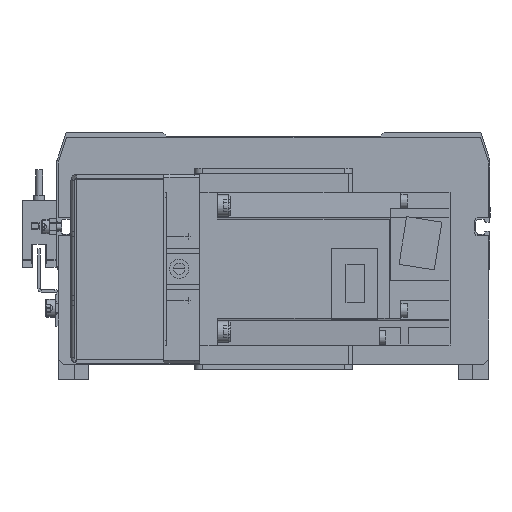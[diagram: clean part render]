
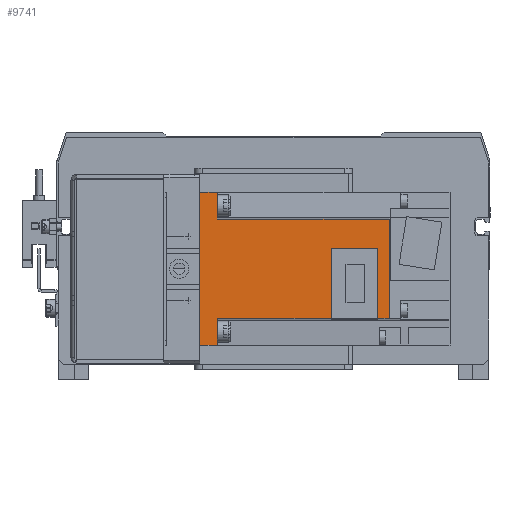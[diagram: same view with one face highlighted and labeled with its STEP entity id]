
A CAD part, front view. The second image highlights one B-rep face of the part: STEP entity #9741.
In plain terms, the highlighted planar face has unit normal (0, -1, 0) as drawn and (1, 0, 0) by its records, which use the part's own axes.
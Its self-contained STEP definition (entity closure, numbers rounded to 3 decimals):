
#260 = ORIENTED_EDGE ( 'NONE', *, *, #28273, .F. ) ;
#1345 = EDGE_CURVE ( 'NONE', #31547, #38674, #34693, .T. ) ;
#1604 = ORIENTED_EDGE ( 'NONE', *, *, #13764, .F. ) ;
#1824 = EDGE_CURVE ( 'NONE', #34886, #28120, #7977, .T. ) ;
#1915 = EDGE_CURVE ( 'NONE', #12180, #17762, #31062, .T. ) ;
#2846 = VECTOR ( 'NONE', #35139, 1000. ) ;
#3075 = DIRECTION ( 'NONE',  ( 0., 0., -1. ) ) ;
#4264 = CARTESIAN_POINT ( 'NONE',  ( 30., 0., -30. ) ) ;
#4370 = ORIENTED_EDGE ( 'NONE', *, *, #42061, .F. ) ;
#4435 = VECTOR ( 'NONE', #34266, 1000. ) ;
#5541 = CARTESIAN_POINT ( 'NONE',  ( 30., 51.7, 8. ) ) ;
#6582 = VECTOR ( 'NONE', #3075, 1000. ) ;
#7108 = EDGE_CURVE ( 'NONE', #28120, #27950, #12676, .T. ) ;
#7977 = LINE ( 'NONE', #38314, #26899 ) ;
#8262 = ORIENTED_EDGE ( 'NONE', *, *, #1345, .F. ) ;
#9102 = EDGE_CURVE ( 'NONE', #25977, #31547, #26340, .T. ) ;
#9741 = ADVANCED_FACE ( 'NONE', ( #34570 ), #10583, .F. ) ;
#10177 = DIRECTION ( 'NONE',  ( -1., 0., 0. ) ) ;
#10583 = PLANE ( 'NONE',  #29922 ) ;
#10678 = DIRECTION ( 'NONE',  ( 0., -1., 0. ) ) ;
#10706 = CARTESIAN_POINT ( 'NONE',  ( 30., 7., 30. ) ) ;
#10755 = CARTESIAN_POINT ( 'NONE',  ( 30., 7., -19.515 ) ) ;
#10895 = LINE ( 'NONE', #10706, #32956 ) ;
#11952 = CARTESIAN_POINT ( 'NONE',  ( 30., 0., 30. ) ) ;
#12180 = VERTEX_POINT ( 'NONE', #4264 ) ;
#12455 = VECTOR ( 'NONE', #23404, 1000. ) ;
#12533 = ORIENTED_EDGE ( 'NONE', *, *, #20472, .F. ) ;
#12676 = LINE ( 'NONE', #37465, #39381 ) ;
#13764 = EDGE_CURVE ( 'NONE', #14744, #25977, #19845, .T. ) ;
#13953 = DIRECTION ( 'NONE',  ( 0., 1., 0. ) ) ;
#14555 = ORIENTED_EDGE ( 'NONE', *, *, #1915, .T. ) ;
#14718 = CARTESIAN_POINT ( 'NONE',  ( 30., 0., 0. ) ) ;
#14744 = VERTEX_POINT ( 'NONE', #42346 ) ;
#15696 = ORIENTED_EDGE ( 'NONE', *, *, #31264, .T. ) ;
#17152 = CARTESIAN_POINT ( 'NONE',  ( 30., 74.5, 8. ) ) ;
#17266 = VERTEX_POINT ( 'NONE', #35558 ) ;
#17762 = VERTEX_POINT ( 'NONE', #31649 ) ;
#19203 = CARTESIAN_POINT ( 'NONE',  ( 30., 74.5, -30. ) ) ;
#19845 = LINE ( 'NONE', #20346, #37826 ) ;
#20346 = CARTESIAN_POINT ( 'NONE',  ( 30., 74.5, 19.515 ) ) ;
#20472 = EDGE_CURVE ( 'NONE', #17266, #34886, #40605, .T. ) ;
#20731 = VERTEX_POINT ( 'NONE', #11952 ) ;
#20759 = DIRECTION ( 'NONE',  ( 0., 1., 0. ) ) ;
#21754 = ORIENTED_EDGE ( 'NONE', *, *, #9102, .F. ) ;
#21812 = VECTOR ( 'NONE', #39759, 1000. ) ;
#21889 = LINE ( 'NONE', #14718, #4435 ) ;
#21898 = CARTESIAN_POINT ( 'NONE',  ( 30., 74.5, -19.515 ) ) ;
#22720 = CARTESIAN_POINT ( 'NONE',  ( 30., 7., 30. ) ) ;
#23116 = CARTESIAN_POINT ( 'NONE',  ( 30., 74.5, 30. ) ) ;
#23404 = DIRECTION ( 'NONE',  ( 0., 0., -1. ) ) ;
#24174 = VECTOR ( 'NONE', #10678, 1000. ) ;
#25173 = EDGE_LOOP ( 'NONE', ( #8262, #21754, #1604, #4370, #42369, #15696, #14555, #260, #39358, #32254, #12533, #28304 ) ) ;
#25969 = EDGE_CURVE ( 'NONE', #20731, #32903, #31034, .T. ) ;
#25977 = VERTEX_POINT ( 'NONE', #36955 ) ;
#26194 = CARTESIAN_POINT ( 'NONE',  ( 30., 69.85, -19.515 ) ) ;
#26340 = LINE ( 'NONE', #23116, #12455 ) ;
#26537 = CARTESIAN_POINT ( 'NONE',  ( 30., 74.5, -19.515 ) ) ;
#26899 = VECTOR ( 'NONE', #35183, 1000. ) ;
#26962 = CARTESIAN_POINT ( 'NONE',  ( 30., 69.85, 30. ) ) ;
#27950 = VERTEX_POINT ( 'NONE', #10755 ) ;
#28120 = VERTEX_POINT ( 'NONE', #29097 ) ;
#28273 = EDGE_CURVE ( 'NONE', #27950, #17762, #10895, .T. ) ;
#28304 = ORIENTED_EDGE ( 'NONE', *, *, #37600, .F. ) ;
#29097 = CARTESIAN_POINT ( 'NONE',  ( 30., 51.7, -19.515 ) ) ;
#29922 = AXIS2_PLACEMENT_3D ( 'NONE', #33408, #10177, #36871 ) ;
#30528 = DIRECTION ( 'NONE',  ( 0., 0., -1. ) ) ;
#30635 = CARTESIAN_POINT ( 'NONE',  ( 30., 74.5, 30. ) ) ;
#31034 = LINE ( 'NONE', #30635, #35587 ) ;
#31062 = LINE ( 'NONE', #19203, #38741 ) ;
#31264 = EDGE_CURVE ( 'NONE', #20731, #12180, #21889, .T. ) ;
#31547 = VERTEX_POINT ( 'NONE', #26537 ) ;
#31649 = CARTESIAN_POINT ( 'NONE',  ( 30., 7., -30. ) ) ;
#32254 = ORIENTED_EDGE ( 'NONE', *, *, #1824, .F. ) ;
#32903 = VERTEX_POINT ( 'NONE', #33172 ) ;
#32956 = VECTOR ( 'NONE', #30528, 1000. ) ;
#33172 = CARTESIAN_POINT ( 'NONE',  ( 30., 7., 30. ) ) ;
#33408 = CARTESIAN_POINT ( 'NONE',  ( 30., 74.5, 30. ) ) ;
#34145 = LINE ( 'NONE', #26962, #21812 ) ;
#34266 = DIRECTION ( 'NONE',  ( 0., 0., -1. ) ) ;
#34447 = DIRECTION ( 'NONE',  ( 0., -1., 0. ) ) ;
#34570 = FACE_OUTER_BOUND ( 'NONE', #25173, .T. ) ;
#34693 = LINE ( 'NONE', #21898, #2846 ) ;
#34886 = VERTEX_POINT ( 'NONE', #5541 ) ;
#35139 = DIRECTION ( 'NONE',  ( 0., -1., 0. ) ) ;
#35183 = DIRECTION ( 'NONE',  ( 0., 0., -1. ) ) ;
#35558 = CARTESIAN_POINT ( 'NONE',  ( 30., 69.85, 8. ) ) ;
#35587 = VECTOR ( 'NONE', #13953, 1000. ) ;
#36871 = DIRECTION ( 'NONE',  ( 0., 0., 1. ) ) ;
#36955 = CARTESIAN_POINT ( 'NONE',  ( 30., 74.5, 19.515 ) ) ;
#37465 = CARTESIAN_POINT ( 'NONE',  ( 30., 74.5, -19.515 ) ) ;
#37600 = EDGE_CURVE ( 'NONE', #38674, #17266, #34145, .T. ) ;
#37826 = VECTOR ( 'NONE', #20759, 1000. ) ;
#38314 = CARTESIAN_POINT ( 'NONE',  ( 30., 51.7, 30. ) ) ;
#38674 = VERTEX_POINT ( 'NONE', #26194 ) ;
#38741 = VECTOR ( 'NONE', #42413, 1000. ) ;
#39358 = ORIENTED_EDGE ( 'NONE', *, *, #7108, .F. ) ;
#39381 = VECTOR ( 'NONE', #34447, 1000. ) ;
#39759 = DIRECTION ( 'NONE',  ( 0., 0., 1. ) ) ;
#40605 = LINE ( 'NONE', #17152, #24174 ) ;
#41945 = LINE ( 'NONE', #22720, #6582 ) ;
#42061 = EDGE_CURVE ( 'NONE', #32903, #14744, #41945, .T. ) ;
#42346 = CARTESIAN_POINT ( 'NONE',  ( 30., 7., 19.515 ) ) ;
#42369 = ORIENTED_EDGE ( 'NONE', *, *, #25969, .F. ) ;
#42413 = DIRECTION ( 'NONE',  ( 0., 1., 0. ) ) ;
